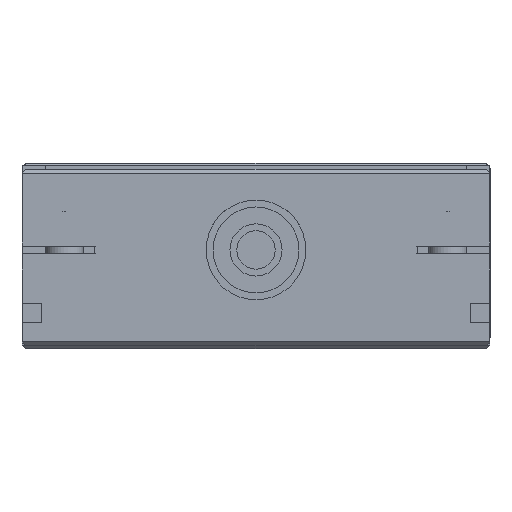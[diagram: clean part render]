
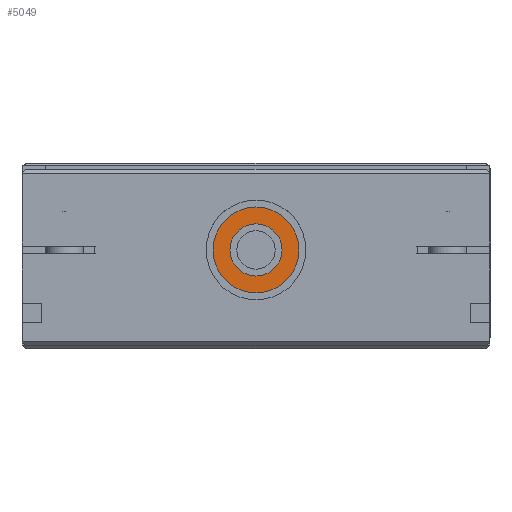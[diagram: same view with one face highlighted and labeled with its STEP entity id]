
A CAD part, top view. The second image highlights one B-rep face of the part: STEP entity #5049.
In plain terms, the highlighted planar face has unit normal (0, 0, 1) as drawn and (1, 0, 0) by its records, which use the part's own axes.
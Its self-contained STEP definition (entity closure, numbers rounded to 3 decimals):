
#36 = EDGE_LOOP ( 'NONE', ( #31467, #269 ) ) ;
#269 = ORIENTED_EDGE ( 'NONE', *, *, #8204, .T. ) ;
#405 = VERTEX_POINT ( 'NONE', #973 ) ;
#721 = DIRECTION ( 'NONE',  ( 0., 0., 1. ) ) ;
#819 = CARTESIAN_POINT ( 'NONE',  ( 228., 25., 6.8 ) ) ;
#973 = CARTESIAN_POINT ( 'NONE',  ( 228., 25., 11.2 ) ) ;
#1100 = FACE_OUTER_BOUND ( 'NONE', #20964, .T. ) ;
#1486 = FACE_BOUND ( 'NONE', #36, .T. ) ;
#1765 = CIRCLE ( 'NONE', #26557, 6.8 ) ;
#1927 = EDGE_CURVE ( 'NONE', #3316, #405, #32096, .T. ) ;
#3316 = VERTEX_POINT ( 'NONE', #5400 ) ;
#5049 = ADVANCED_FACE ( 'NONE', ( #1100, #1486 ), #24996, .F. ) ;
#5400 = CARTESIAN_POINT ( 'NONE',  ( 228., 25., -11.2 ) ) ;
#5968 = AXIS2_PLACEMENT_3D ( 'NONE', #25970, #10863, #13775 ) ;
#7697 = EDGE_CURVE ( 'NONE', #33238, #8588, #1765, .T. ) ;
#8204 = EDGE_CURVE ( 'NONE', #8588, #33238, #18556, .T. ) ;
#8513 = DIRECTION ( 'NONE',  ( 0., 0., 1. ) ) ;
#8588 = VERTEX_POINT ( 'NONE', #8962 ) ;
#8962 = CARTESIAN_POINT ( 'NONE',  ( 228., 25., -6.8 ) ) ;
#10863 = DIRECTION ( 'NONE',  ( -1., 0., 0. ) ) ;
#12440 = DIRECTION ( 'NONE',  ( -1., 0., 0. ) ) ;
#13775 = DIRECTION ( 'NONE',  ( 0., 0., 1. ) ) ;
#18183 = ORIENTED_EDGE ( 'NONE', *, *, #1927, .F. ) ;
#18556 = CIRCLE ( 'NONE', #30318, 6.8 ) ;
#19870 = EDGE_CURVE ( 'NONE', #405, #3316, #22732, .T. ) ;
#20329 = AXIS2_PLACEMENT_3D ( 'NONE', #31045, #12440, #24451 ) ;
#20964 = EDGE_LOOP ( 'NONE', ( #30776, #18183 ) ) ;
#22067 = DIRECTION ( 'NONE',  ( -1., 0., 0. ) ) ;
#22732 = CIRCLE ( 'NONE', #5968, 11.2 ) ;
#22836 = DIRECTION ( 'NONE',  ( 0., 0., 1. ) ) ;
#23087 = DIRECTION ( 'NONE',  ( -1., 0., 0. ) ) ;
#24451 = DIRECTION ( 'NONE',  ( 0., 0., 1. ) ) ;
#24639 = AXIS2_PLACEMENT_3D ( 'NONE', #36639, #22067, #721 ) ;
#24996 = PLANE ( 'NONE',  #24639 ) ;
#25753 = CARTESIAN_POINT ( 'NONE',  ( 228., 25., 0. ) ) ;
#25970 = CARTESIAN_POINT ( 'NONE',  ( 228., 25., 0. ) ) ;
#26557 = AXIS2_PLACEMENT_3D ( 'NONE', #32004, #23087, #8513 ) ;
#30318 = AXIS2_PLACEMENT_3D ( 'NONE', #25753, #37586, #22836 ) ;
#30776 = ORIENTED_EDGE ( 'NONE', *, *, #19870, .F. ) ;
#31045 = CARTESIAN_POINT ( 'NONE',  ( 228., 25., 0. ) ) ;
#31467 = ORIENTED_EDGE ( 'NONE', *, *, #7697, .T. ) ;
#32004 = CARTESIAN_POINT ( 'NONE',  ( 228., 25., 0. ) ) ;
#32096 = CIRCLE ( 'NONE', #20329, 11.2 ) ;
#33238 = VERTEX_POINT ( 'NONE', #819 ) ;
#36639 = CARTESIAN_POINT ( 'NONE',  ( 228., 31.8, 0. ) ) ;
#37586 = DIRECTION ( 'NONE',  ( -1., 0., 0. ) ) ;
